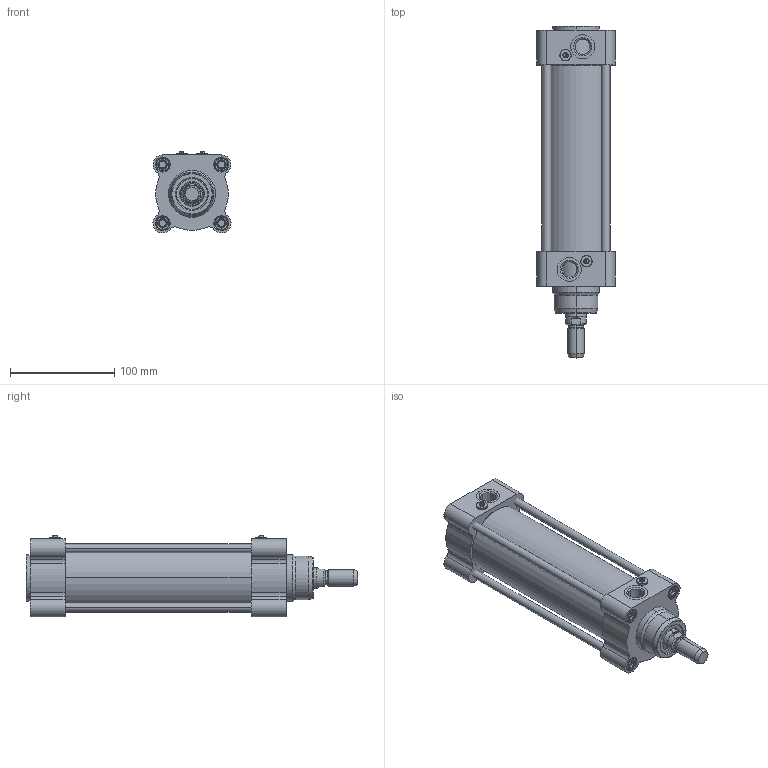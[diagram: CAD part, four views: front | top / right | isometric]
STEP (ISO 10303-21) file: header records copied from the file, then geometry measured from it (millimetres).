
FILE_DESCRIPTION (( 'STEP AP203' ), '1' );
FILE_NAME ('CTMI63-125.STEP', '2020-03-26T19:32:05', ( '' ), ( '' ), 'SwSTEP 2.0', 'SolidWorks 2019', '' );
FILE_SCHEMA (( 'CONFIG_CONTROL_DESIGN' ));
Length unit declared in the file: millimetre
Products named in the file (1): CTMI63-125
Bounding box: 74.97 x 319 x 78.68 mm (x, y, z)
Surface area: 184219.5 mm2 (no closed solid volume)
Topology: 0 solids, 24 shells, 731 faces, 1692 edges, 1048 vertices
Faces by surface type: cone 229, cylinder 203, plane 195, torus 88, bspline 16
Entity records: 23937 total; most frequent: CARTESIAN_POINT 7595, DIRECTION 3498, ORIENTED_EDGE 3336, EDGE_CURVE 1692, AXIS2_PLACEMENT_3D 1428, VERTEX_POINT 1048, EDGE_LOOP 804, FACE_OUTER_BOUND 731
